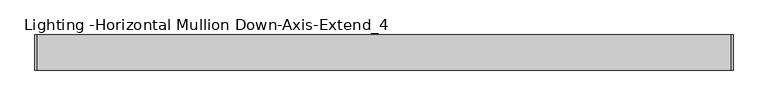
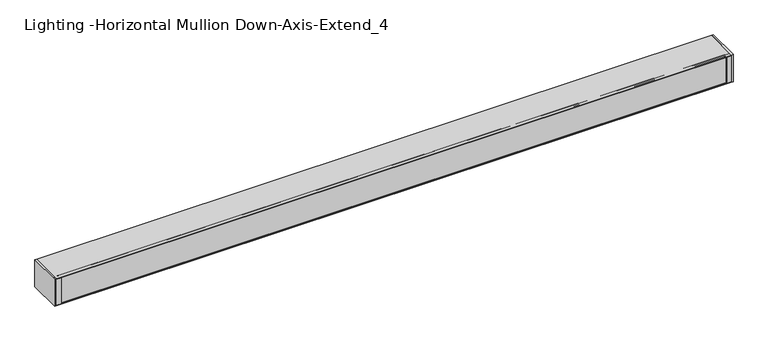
"""IFC4 building model written with IfcOpenShell, lengths in millimetres: light fixture geometry, Lighting -Horizontal Mullion Down-Axis-Extend_4 : EX4WD-900-80-35-SO-4."""

from ifc_helpers import new_model, si_unit, point, frame, frame_2d, origin, place, context, project, spatial, polyline, circle_curve, trimmed, segment, composite_curve, outline, extrude, faceted_brep, source, transform, mapped, element, save


def lighting_horizontal_mullion_down_axis_extend_4_82a0bb62(model_context):
    return source(origin(), model_context, "Body", "SolidModel", [
        faceted_brep([(-1022.43636, 122.7455, 31.75), (-1022.43636, 73.9827893, 31.75), (-1022.43636, 73.9827893, 6.35), (-1022.43636, 122.7455, 6.35), (-1141.13564, 122.7455, 31.75), (-1141.13564, 122.7455, 6.35), (-1141.13564, 73.9827893, 6.35), (-1141.13564, 73.9827893, 31.75), (-1116.9201591, 117.3633447, 0.0), (-1116.9201591, 117.3633447, 6.35), (-1046.6518409, 117.3633447, 6.35), (-1046.6518409, 117.3633447, 0.0), (-1116.9201591, 79.3649447, 0.0), (-1046.6518409, 79.3649447, 0.0), (-1116.9201591, 79.3649447, 6.35), (-1046.6518409, 79.3649447, 6.35)], [[[0, 1, 2, 3]], [[4, 5, 6, 7]], [[8, 9, 10, 11]], [[12, 8, 11, 13]], [[14, 12, 13, 15]], [[1, 0, 4, 7]], [[0, 3, 5, 4]], [[6, 5, 3, 2], [14, 15, 10, 9]], [[6, 2, 1, 7]], [[14, 9, 8, 12]], [[10, 15, 13, 11]]]),
        faceted_brep([(1147.48564, 122.7455, 31.75), (1147.48564, 73.9827893, 31.75), (1147.48564, 73.9827893, 6.35), (1147.48564, 122.7455, 6.35), (1028.78636, 122.7455, 31.75), (1028.78636, 122.7455, 6.35), (1028.78636, 73.9827893, 6.35), (1028.78636, 73.9827893, 31.75), (1053.0018409, 117.3633447, 0.0), (1053.0018409, 117.3633447, 6.35), (1123.2701591, 117.3633447, 6.35), (1123.2701591, 117.3633447, 0.0), (1053.0018409, 79.3649447, 0.0), (1123.2701591, 79.3649447, 0.0), (1053.0018409, 79.3649447, 6.35), (1123.2701591, 79.3649447, 6.35)], [[[0, 1, 2, 3]], [[4, 5, 6, 7]], [[8, 9, 10, 11]], [[12, 8, 11, 13]], [[14, 12, 13, 15]], [[1, 0, 4, 7]], [[0, 3, 5, 4]], [[6, 5, 3, 2], [14, 15, 10, 9]], [[6, 2, 1, 7]], [[14, 9, 8, 12]], [[10, 15, 13, 11]]]),
        extrude(outline(polyline([(1215.8726, 1.1017139), (1215.8726, 2.57175), (1216.66635, 2.57175), (1216.66635, 1.778), (1223.518, 1.778), (1223.518, 4.5842019), (1234.186, 4.5842019), (1234.186, 0.0), (1216.7971437, 0.0), (1215.8726, 1.1017139)])), frame((0.0, 0.0, 33.782), z_axis=(0.0, 0.0, 1.0), x_axis=(1.0, 0.0, 0.0)), (0.0, 0.0, 1.0), 101.50602),
        extrude(outline(polyline([(1234.186, 0.0), (1234.186, 124.7775), (1240.536, 124.7775), (1240.536, 0.0), (1234.186, 0.0)])), frame((0.0, 0.0, 31.75), z_axis=(0.0, 0.0, 1.0), x_axis=(1.0, 0.0, 0.0)), (0.0, 0.0, 1.0), 105.57002),
        extrude(outline(polyline([(-1215.8726, 1.1017139), (-1216.7971437, 0.0), (-1234.186, 0.0), (-1234.186, 4.5842019), (-1223.518, 4.5842019), (-1223.518, 1.778), (-1216.66635, 1.778), (-1216.66635, 2.57175), (-1215.8726, 2.57175), (-1215.8726, 1.1017139)])), frame((0.0, 0.0, 33.782), z_axis=(0.0, 0.0, 1.0), x_axis=(1.0, 0.0, 0.0)), (0.0, 0.0, 1.0), 101.50602),
        extrude(outline(polyline([(-1234.186, 124.7775), (-1234.186, 0.0), (-1240.536, 0.0), (-1240.536, 124.7775), (-1234.186, 124.7775)])), frame((0.0, 0.0, 31.75), z_axis=(0.0, 0.0, 1.0), x_axis=(1.0, 0.0, 0.0)), (0.0, 0.0, 1.0), 105.57002),
        extrude(outline(composite_curve([segment(polyline([(4.8895009, 129.4887462), (4.8895009, 39.5812738), (11.3521263, 39.2425819)]), True, "CONTINUOUS"), segment(trimmed(circle_curve(frame_2d((14.351, 36.4998)), 4.064), [point((11.3521263, 39.2425819))], [point((17.9580097, 38.3721186))], False, "CARTESIAN"), True, "CONTINUOUS"), segment(trimmed(circle_curve(frame_2d((17.1691543, 41.604656)), 3.3274001), [point((17.9580097, 38.3721186))], [point((19.4557425, 39.1874044))], True, "CARTESIAN"), True, "CONTINUOUS"), segment(trimmed(circle_curve(frame_2d((12.4214292, 46.6236823)), 10.2362001), [point((19.4557425, 39.1874044))], [point((20.6551445, 40.5420934))], True, "CARTESIAN"), True, "CONTINUOUS"), segment(trimmed(circle_curve(frame_2d((21.3191538, 40.0516427)), 0.8255), [point((20.6551445, 40.5420934))], [point((21.9831631, 39.561192))], False, "CARTESIAN"), True, "CONTINUOUS"), segment(trimmed(circle_curve(frame_2d((12.4214283, 46.6236831)), 11.8872013), [point((21.9831631, 39.561192))], [point((20.5903092, 37.9880048))], False, "CARTESIAN"), True, "CONTINUOUS"), segment(trimmed(circle_curve(frame_2d((17.1691543, 41.604656)), 4.9784001), [point((20.5903092, 37.9880048))], [point((16.75974, 36.6431193))], False, "CARTESIAN"), True, "CONTINUOUS"), segment(trimmed(circle_curve(frame_2d((14.351, 36.4998)), 2.413), [point((16.75974, 36.6431193))], [point((12.7205342, 38.2786059))], True, "CARTESIAN"), True, "CONTINUOUS"), segment(trimmed(circle_curve(frame_2d((11.0042544, 40.1510331)), 2.54), [point((12.7205342, 38.2786059))], [point((10.8713211, 37.6145141))], False, "CARTESIAN"), True, "CONTINUOUS"), segment(polyline([(10.8713211, 37.6145141), (4.8895009, 37.928008), (4.8895009, 34.925), (2.9845, 34.925), (2.9845, 134.14502), (4.8895009, 134.14502), (4.8895009, 131.142012), (10.8713211, 131.4555059)]), True, "CONTINUOUS"), segment(trimmed(circle_curve(frame_2d((11.0042544, 128.9189869)), 2.54), [point((10.8713211, 131.4555059))], [point((12.7205342, 130.7914141))], False, "CARTESIAN"), True, "CONTINUOUS"), segment(trimmed(circle_curve(frame_2d((14.351, 132.57022)), 2.413), [point((12.7205342, 130.7914141))], [point((16.75974, 132.4269007))], True, "CARTESIAN"), True, "CONTINUOUS"), segment(trimmed(circle_curve(frame_2d((17.1691543, 127.465364)), 4.9784001), [point((16.75974, 132.4269007))], [point((20.5903092, 131.0820152))], False, "CARTESIAN"), True, "CONTINUOUS"), segment(trimmed(circle_curve(frame_2d((12.4214283, 122.4463369)), 11.8872013), [point((20.5903092, 131.0820152))], [point((21.9831631, 129.508828))], False, "CARTESIAN"), True, "CONTINUOUS"), segment(trimmed(circle_curve(frame_2d((21.3191538, 129.0183773)), 0.8255), [point((21.9831631, 129.508828))], [point((20.6551445, 128.5279266))], False, "CARTESIAN"), True, "CONTINUOUS"), segment(trimmed(circle_curve(frame_2d((12.4214292, 122.4463377)), 10.2362001), [point((20.6551445, 128.5279266))], [point((19.4557425, 129.8826156))], True, "CARTESIAN"), True, "CONTINUOUS"), segment(trimmed(circle_curve(frame_2d((17.1691543, 127.465364)), 3.3274001), [point((19.4557425, 129.8826156))], [point((17.9580097, 130.6979014))], True, "CARTESIAN"), True, "CONTINUOUS"), segment(trimmed(circle_curve(frame_2d((14.351, 132.57022)), 4.064), [point((17.9580097, 130.6979014))], [point((11.3521263, 129.8274381))], False, "CARTESIAN"), True, "CONTINUOUS"), segment(polyline([(11.3521263, 129.8274381), (4.8895009, 129.4887462)]), True, "CONTINUOUS")], self_intersect=False)), frame((-1219.2, 0.0, 0.0), z_axis=(1.0, 0.0, 0.0), x_axis=(0.0, 1.0, 0.0)), (0.0, 0.0, 1.0), 2438.4),
        extrude(outline(composite_curve([segment(polyline([(14.9098, 135.28802), (14.9098, 133.4485997)]), True, "CONTINUOUS"), segment(trimmed(circle_curve(frame_2d((14.9098, 131.9422497)), 1.5063501), [point((14.9098, 133.4485997))], [point((16.2143374, 131.1890746))], False, "CARTESIAN"), True, "CONTINUOUS"), segment(trimmed(circle_curve(frame_2d((14.1511921, 132.3802321)), 2.382315), [point((16.2143374, 131.1890746))], [point((13.9591318, 130.0056716))], False, "CARTESIAN"), True, "CONTINUOUS"), segment(polyline([(13.9591318, 130.0056716), (11.1252, 133.38302), (12.8778, 133.38302), (12.8778, 135.28802), (6.35, 135.28802), (6.35, 133.38302), (7.874, 133.38302), (7.7874748, 131.73202), (5.08, 131.73202), (5.08, 135.28802), (0.0, 135.28802), (0.0, 137.32002), (124.7775, 137.32002), (124.7775, 31.75), (0.0, 31.75), (0.0, 33.782), (5.08, 33.782), (5.08, 37.338), (7.7874748, 37.338), (7.874, 35.687), (6.35, 35.687), (6.35, 33.782), (12.8778, 33.782), (12.8778, 35.687), (11.1252, 35.687), (13.9591318, 39.0643484)]), True, "CONTINUOUS"), segment(trimmed(circle_curve(frame_2d((14.1511921, 36.6897879)), 2.382315), [point((13.9591318, 39.0643484))], [point((16.2143374, 37.8809454))], False, "CARTESIAN"), True, "CONTINUOUS"), segment(trimmed(circle_curve(frame_2d((14.9098, 37.1277703)), 1.5063501), [point((16.2143374, 37.8809454))], [point((14.9098, 35.6214203))], False, "CARTESIAN"), True, "CONTINUOUS"), segment(polyline([(14.9098, 35.6214203), (14.9098, 33.782), (122.7455, 33.782), (122.7455, 135.28802), (14.9098, 135.28802)]), True, "CONTINUOUS")], self_intersect=False)), frame((-1234.186, 0.0, 0.0), z_axis=(1.0, 0.0, 0.0), x_axis=(0.0, 1.0, 0.0)), (0.0, 0.0, 1.0), 2468.372),
    ])


if __name__ == "__main__":
    model = new_model("IFC4")
    model_context = context("Model", 3, world=origin())
    ifc_project = project(units=[si_unit("LENGTHUNIT", "METRE", prefix="MILLI")], contexts=[model_context])
    site = spatial("IfcSite", under=ifc_project)
    building = spatial("IfcBuilding", under=site)
    placement = place(None, origin())
    lighting_horizontal_mullion_down_axis_extend_4_shape = lighting_horizontal_mullion_down_axis_extend_4_82a0bb62(model_context)
    element("IfcLightFixture", 1, ObjectType="Lighting -Horizontal Mullion Down-Axis-Extend_4 : EX4WD-900-80-35-SO-4", at=placement, inside=building, context=model_context, shape_type="MappedRepresentation", body=[
        mapped(lighting_horizontal_mullion_down_axis_extend_4_shape, transform((0.0, 0.0, 0.0), x_axis=(1.0, 0.0, 0.0), y_axis=(0.0, 1.0, 0.0), z_axis=(0.0, 0.0, 1.0))),
    ])
    save(model, "model.ifc")
